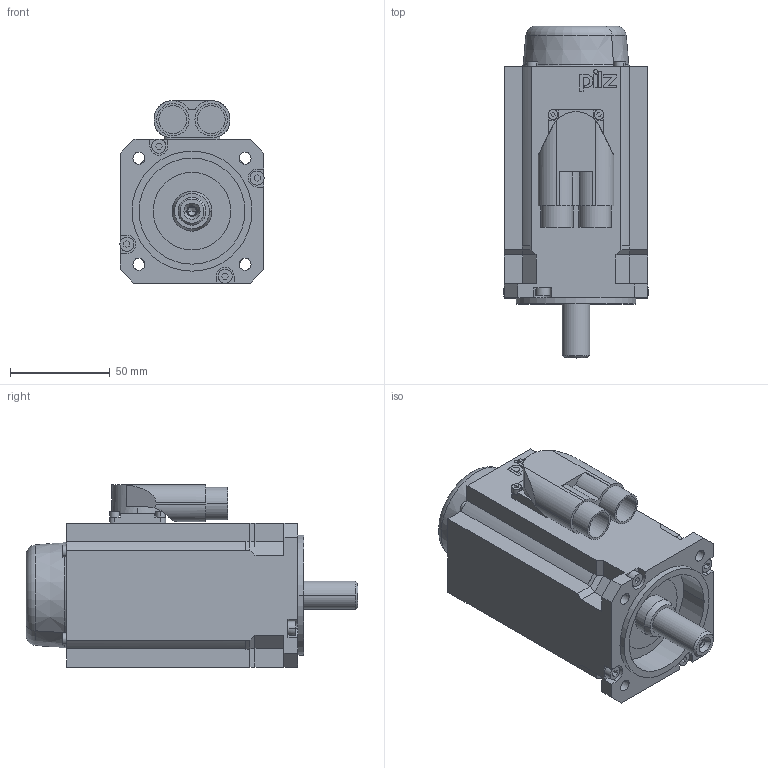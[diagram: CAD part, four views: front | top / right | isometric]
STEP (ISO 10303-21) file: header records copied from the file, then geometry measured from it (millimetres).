
FILE_DESCRIPTION((''),'2;1');
FILE_NAME('2031352','2021-08-27T07:16:59',('s.mayer'),(''),'CREO PARAMETRIC BY PTC INC, 2019292','CREO PARAMETRIC BY PTC INC, 2019292','');
FILE_SCHEMA(('AUTOMOTIVE_DESIGN { 1 0 10303 214 1 1 1 1 }'));
Length unit declared in the file: millimetre
Products named in the file (1): 2031352
Bounding box: 72.04 x 166 x 91.22 mm (x, y, z)
Surface area: 58655.9 mm2 (no closed solid volume)
Topology: 0 solids, 1 shells, 317 faces, 867 edges, 577 vertices
Faces by surface type: plane 212, cylinder 87, cone 14, torus 4
Entity records: 15141 total; most frequent: CARTESIAN_POINT 1915, DIRECTION 1683, ORIENTED_EDGE 1658, PRESENTATION_STYLE_ASSIGNMENT 1184, STYLED_ITEM 867, CURVE_STYLE 866, EDGE_CURVE 860, VECTOR 635
